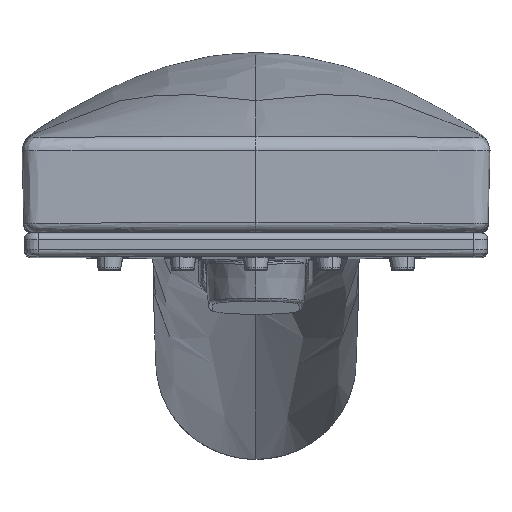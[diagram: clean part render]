
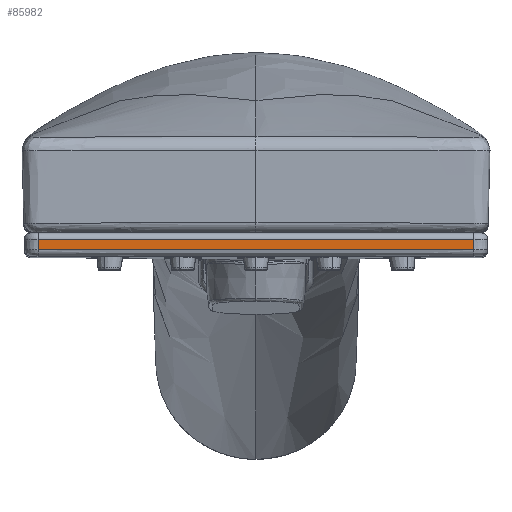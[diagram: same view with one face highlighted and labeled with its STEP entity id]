
A CAD part, top view. The second image highlights one B-rep face of the part: STEP entity #85982.
In plain terms, the highlighted planar face has unit normal (0, -0.018, 1).
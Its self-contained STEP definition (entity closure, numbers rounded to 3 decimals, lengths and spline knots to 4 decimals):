
#2044 = CARTESIAN_POINT ( 'NONE',  ( -1.2854, -0.042, 2.2434 ) ) ;
#5431 = CARTESIAN_POINT ( 'NONE',  ( 1.2854, -0.1011, 2.2424 ) ) ;
#8155 = EDGE_CURVE ( 'NONE', #99315, #65954, #95302, .T. ) ;
#13258 = EDGE_LOOP ( 'NONE', ( #76984, #61954, #64085, #14458 ) ) ;
#13555 = CARTESIAN_POINT ( 'NONE',  ( 0.7573, -0.1014, 2.2424 ) ) ;
#14458 = ORIENTED_EDGE ( 'NONE', *, *, #69692, .F. ) ;
#15563 = DIRECTION ( 'NONE',  ( -1., 0., 0. ) ) ;
#21143 = CARTESIAN_POINT ( 'NONE',  ( 0.0785, -0.1015, 2.2424 ) ) ;
#21699 = CARTESIAN_POINT ( 'NONE',  ( 0.301, -0.1015, 2.2424 ) ) ;
#24489 = CARTESIAN_POINT ( 'NONE',  ( -1.2854, -0.042, 2.2434 ) ) ;
#24974 = VECTOR ( 'NONE', #36614, 39.3701 ) ;
#26454 = DIRECTION ( 'NONE',  ( 1., 0., 0. ) ) ;
#31857 = DIRECTION ( 'NONE',  ( 0., -0.017, 1. ) ) ;
#33001 = EDGE_CURVE ( 'NONE', #106957, #97395, #104303, .T. ) ;
#35130 = LINE ( 'NONE', #2044, #88810 ) ;
#36614 = DIRECTION ( 'NONE',  ( 0., 1., 0.017 ) ) ;
#37967 = CARTESIAN_POINT ( 'NONE',  ( -1.2854, -0.1011, 2.2424 ) ) ;
#38428 = DIRECTION ( 'NONE',  ( 0., 1., 0.017 ) ) ;
#45061 = B_SPLINE_CURVE_WITH_KNOTS ( 'NONE', 3,
 ( #37967, #97554, #45567, #78614, #104041, #105139, #63978, #21143, #21699, #87807, #13555, #46637, #79683, #5431 ),
 .UNSPECIFIED., .F., .F.,
 ( 4, 1, 1, 1, 1, 1, 1, 1, 1, 1, 1, 4 ),
 ( 0., 0.0909, 0.1818, 0.2727, 0.3636, 0.4545, 0.5455, 0.6364, 0.7273, 0.8182, 0.9091, 1. ),
 .UNSPECIFIED. ) ;
#45567 = CARTESIAN_POINT ( 'NONE',  ( -1.0401, -0.1013, 2.2424 ) ) ;
#46637 = CARTESIAN_POINT ( 'NONE',  ( 1.007, -0.1013, 2.2424 ) ) ;
#57275 = PLANE ( 'NONE',  #64202 ) ;
#57469 = VECTOR ( 'NONE', #38428, 39.3701 ) ;
#59324 = CARTESIAN_POINT ( 'NONE',  ( 1.2854, -0.042, 2.2434 ) ) ;
#61954 = ORIENTED_EDGE ( 'NONE', *, *, #79377, .T. ) ;
#63978 = CARTESIAN_POINT ( 'NONE',  ( -0.1419, -0.1015, 2.2424 ) ) ;
#64085 = ORIENTED_EDGE ( 'NONE', *, *, #33001, .T. ) ;
#64202 = AXIS2_PLACEMENT_3D ( 'NONE', #106064, #31857, #15563 ) ;
#65954 = VERTEX_POINT ( 'NONE', #24489 ) ;
#69692 = EDGE_CURVE ( 'NONE', #65954, #97395, #35130, .T. ) ;
#69754 = CARTESIAN_POINT ( 'NONE',  ( -1.2854, -0.1011, 2.2424 ) ) ;
#71484 = CARTESIAN_POINT ( 'NONE',  ( -1.2854, -0.1011, 2.2424 ) ) ;
#73034 = FACE_OUTER_BOUND ( 'NONE', #13258, .T. ) ;
#76984 = ORIENTED_EDGE ( 'NONE', *, *, #8155, .F. ) ;
#78614 = CARTESIAN_POINT ( 'NONE',  ( -0.8114, -0.1013, 2.2424 ) ) ;
#79377 = EDGE_CURVE ( 'NONE', #99315, #106957, #45061, .T. ) ;
#79683 = CARTESIAN_POINT ( 'NONE',  ( 1.1902, -0.1012, 2.2424 ) ) ;
#85982 = ADVANCED_FACE ( 'NONE', ( #73034 ), #57275, .T. ) ;
#87807 = CARTESIAN_POINT ( 'NONE',  ( 0.5242, -0.1014, 2.2424 ) ) ;
#88810 = VECTOR ( 'NONE', #26454, 39.3701 ) ;
#92187 = CARTESIAN_POINT ( 'NONE',  ( 1.2854, -0.1011, 2.2424 ) ) ;
#94585 = CARTESIAN_POINT ( 'NONE',  ( 1.2854, -0.1011, 2.2424 ) ) ;
#95302 = LINE ( 'NONE', #71484, #57469 ) ;
#97395 = VERTEX_POINT ( 'NONE', #59324 ) ;
#97554 = CARTESIAN_POINT ( 'NONE',  ( -1.2024, -0.1012, 2.2424 ) ) ;
#99315 = VERTEX_POINT ( 'NONE', #69754 ) ;
#104041 = CARTESIAN_POINT ( 'NONE',  ( -0.5852, -0.1014, 2.2424 ) ) ;
#104303 = LINE ( 'NONE', #94585, #24974 ) ;
#105139 = CARTESIAN_POINT ( 'NONE',  ( -0.3628, -0.1015, 2.2424 ) ) ;
#106064 = CARTESIAN_POINT ( 'NONE',  ( 1.4122, -0.002, 2.2441 ) ) ;
#106957 = VERTEX_POINT ( 'NONE', #92187 ) ;
